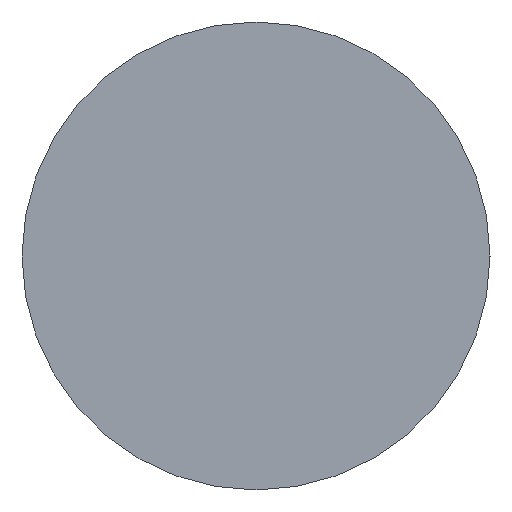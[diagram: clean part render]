
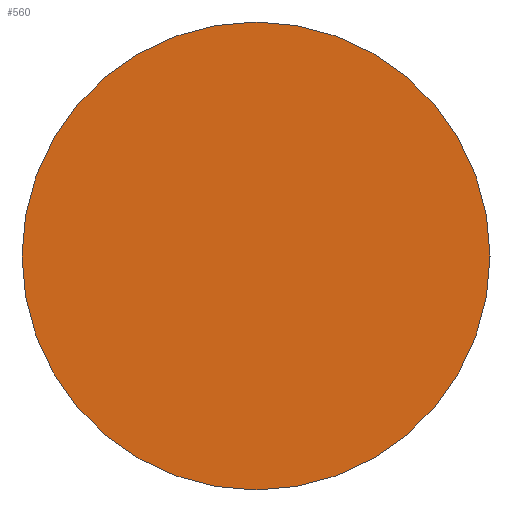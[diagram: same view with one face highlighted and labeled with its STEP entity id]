
A CAD part, left-side view. The second image highlights one B-rep face of the part: STEP entity #560.
In plain terms, the highlighted planar face has unit normal (-1, 0, 0).
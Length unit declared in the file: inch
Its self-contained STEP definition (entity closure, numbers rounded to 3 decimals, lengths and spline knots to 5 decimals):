
#68 = CARTESIAN_POINT ( 'NONE',  ( -6., 0., 0. ) ) ;
#82 = CARTESIAN_POINT ( 'NONE',  ( -6., 0., 0.5 ) ) ;
#181 = PLANE ( 'NONE',  #518 ) ;
#203 = DIRECTION ( 'NONE',  ( 1., 0., 0. ) ) ;
#242 = ORIENTED_EDGE ( 'NONE', *, *, #363, .T. ) ;
#253 = VERTEX_POINT ( 'NONE', #82 ) ;
#283 = CARTESIAN_POINT ( 'NONE',  ( -6., 0., -0.5 ) ) ;
#289 = EDGE_CURVE ( 'NONE', #429, #253, #395, .T. ) ;
#306 = AXIS2_PLACEMENT_3D ( 'NONE', #68, #457, #562 ) ;
#323 = CARTESIAN_POINT ( 'NONE',  ( -6., 0.5, 0. ) ) ;
#363 = EDGE_CURVE ( 'NONE', #253, #429, #424, .T. ) ;
#372 = DIRECTION ( 'NONE',  ( 0., 0., 1. ) ) ;
#392 = DIRECTION ( 'NONE',  ( 0., 0., -1. ) ) ;
#395 = CIRCLE ( 'NONE', #540, 0.5 ) ;
#424 = CIRCLE ( 'NONE', #306, 0.5 ) ;
#429 = VERTEX_POINT ( 'NONE', #283 ) ;
#457 = DIRECTION ( 'NONE',  ( -1., 0., 0. ) ) ;
#464 = FACE_OUTER_BOUND ( 'NONE', #584, .T. ) ;
#495 = ORIENTED_EDGE ( 'NONE', *, *, #289, .T. ) ;
#518 = AXIS2_PLACEMENT_3D ( 'NONE', #323, #203, #392 ) ;
#540 = AXIS2_PLACEMENT_3D ( 'NONE', #583, #598, #372 ) ;
#560 = ADVANCED_FACE ( 'NONE', ( #464 ), #181, .F. ) ;
#562 = DIRECTION ( 'NONE',  ( 0., 0., 1. ) ) ;
#583 = CARTESIAN_POINT ( 'NONE',  ( -6., 0., 0. ) ) ;
#584 = EDGE_LOOP ( 'NONE', ( #242, #495 ) ) ;
#598 = DIRECTION ( 'NONE',  ( -1., 0., 0. ) ) ;
